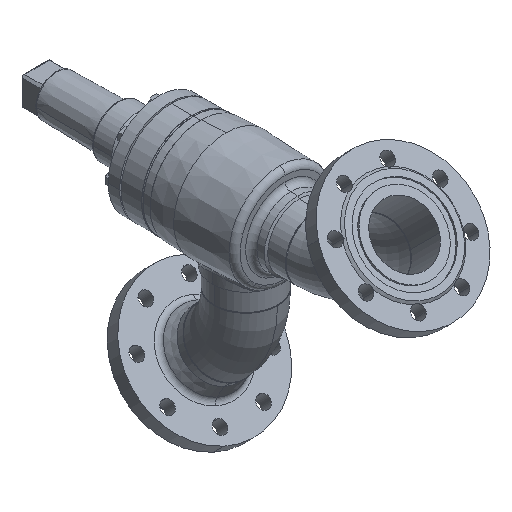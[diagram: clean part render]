
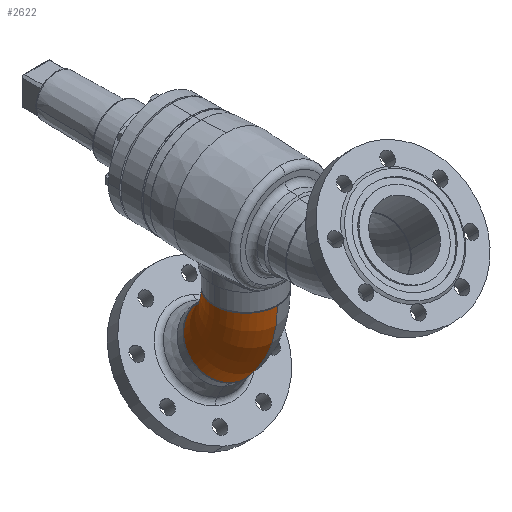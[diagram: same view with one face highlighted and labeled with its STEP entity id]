
A CAD part, isometric view. The second image highlights one B-rep face of the part: STEP entity #2622.
In plain terms, the highlighted toroidal (fillet/blend) face has major radius 114 mm and minor radius 44.45 mm.
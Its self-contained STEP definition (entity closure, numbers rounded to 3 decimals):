
#16778 = CARTESIAN_POINT ( 'NONE',  ( 49.179, -64.821, 0. ) ) ;
#17100 = CARTESIAN_POINT ( 'NONE',  ( 112.041, -1.959, 0. ) ) ;
#17397 = CIRCLE ( 'NONE', #17398, 44.45 ) ;
#17398 = AXIS2_PLACEMENT_3D ( 'NONE', #17399, #17400, #17401 ) ;
#17399 = CARTESIAN_POINT ( 'NONE',  ( 80.61, -33.39, 0. ) ) ;
#17400 = DIRECTION ( 'NONE',  ( 0.707, -0.707, 0. ) ) ;
#17401 = DIRECTION ( 'NONE',  ( 0., 0., -1. ) ) ;
#17686 = CIRCLE ( 'NONE', #17687, 158.45 ) ;
#17687 = AXIS2_PLACEMENT_3D ( 'NONE', #17688, #17689, #17690 ) ;
#17688 = CARTESIAN_POINT ( 'NONE',  ( 0., -114., 0. ) ) ;
#17689 = DIRECTION ( 'NONE',  ( 0., 0., 1. ) ) ;
#17690 = DIRECTION ( 'NONE',  ( 1., 0., 0. ) ) ;
#1319 = FACE_OUTER_BOUND ( 'NONE', #2380, .T. ) ;
#1320 = TOROIDAL_SURFACE ( 'NONE', #1323, 114., 44.45 ) ;
#1323 = AXIS2_PLACEMENT_3D ( 'NONE', #1324, #1325, #1326 ) ;
#1324 = CARTESIAN_POINT ( 'NONE',  ( 0., -114., 0. ) ) ;
#1325 = DIRECTION ( 'NONE',  ( 0., 0., 1. ) ) ;
#1326 = DIRECTION ( 'NONE',  ( 1., 0., 0. ) ) ;
#1863 = ORIENTED_EDGE ( 'NONE', *, *, #10743, .F. ) ;
#2380 = EDGE_LOOP ( 'NONE', ( #1863, #9814, #8529, #7415 ) ) ;
#2622 = ADVANCED_FACE ( 'NONE', ( #1319 ), #1320, .T. ) ;
#7038 = EDGE_CURVE ( 'NONE', #10332, #7932, #11377, .T. ) ;
#7415 = ORIENTED_EDGE ( 'NONE', *, *, #7038, .F. ) ;
#7932 = VERTEX_POINT ( 'NONE', #12074 ) ;
#8158 = EDGE_CURVE ( 'NONE', #9218, #7932, #12386, .T. ) ;
#8529 = ORIENTED_EDGE ( 'NONE', *, *, #8158, .T. ) ;
#9218 = VERTEX_POINT ( 'NONE', #13335 ) ;
#9442 = EDGE_CURVE ( 'NONE', #10554, #9218, #17686, .T. ) ;
#9814 = ORIENTED_EDGE ( 'NONE', *, *, #9442, .T. ) ;
#10332 = VERTEX_POINT ( 'NONE', #16778 ) ;
#10554 = VERTEX_POINT ( 'NONE', #17100 ) ;
#10743 = EDGE_CURVE ( 'NONE', #10554, #10332, #17397, .T. ) ;
#11377 = CIRCLE ( 'NONE', #11378, 69.55 ) ;
#11378 = AXIS2_PLACEMENT_3D ( 'NONE', #11379, #11382, #11383 ) ;
#11379 = CARTESIAN_POINT ( 'NONE',  ( 0., -114., 0. ) ) ;
#11382 = DIRECTION ( 'NONE',  ( 0., 0., 1. ) ) ;
#11383 = DIRECTION ( 'NONE',  ( 1., 0., 0. ) ) ;
#12074 = CARTESIAN_POINT ( 'NONE',  ( 0., -44.45, 0. ) ) ;
#12386 = CIRCLE ( 'NONE', #12387, 44.45 ) ;
#12387 = AXIS2_PLACEMENT_3D ( 'NONE', #12388, #12389, #12390 ) ;
#12388 = CARTESIAN_POINT ( 'NONE',  ( 0., 0., 0. ) ) ;
#12389 = DIRECTION ( 'NONE',  ( 1., 0., 0. ) ) ;
#12390 = DIRECTION ( 'NONE',  ( 0., 0., -1. ) ) ;
#13335 = CARTESIAN_POINT ( 'NONE',  ( 0., 44.45, 0. ) ) ;
